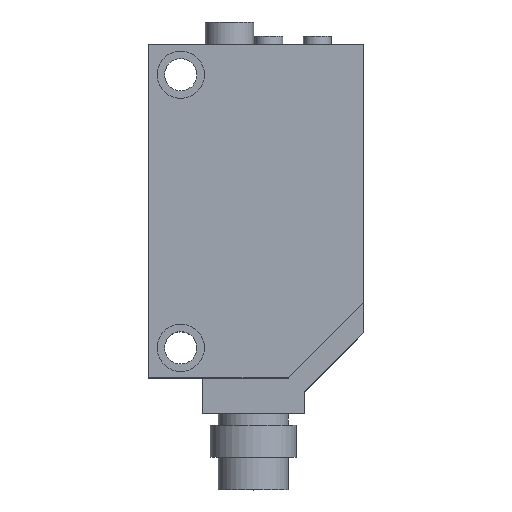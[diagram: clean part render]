
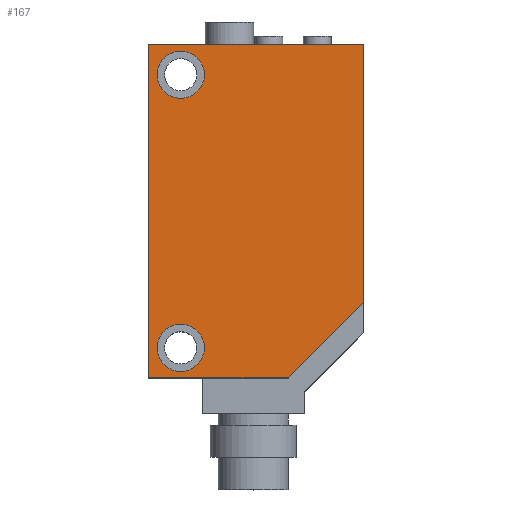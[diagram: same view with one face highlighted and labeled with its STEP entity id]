
A CAD part, top view. The second image highlights one B-rep face of the part: STEP entity #167.
In plain terms, the highlighted planar face has unit normal (0, 0, 1).
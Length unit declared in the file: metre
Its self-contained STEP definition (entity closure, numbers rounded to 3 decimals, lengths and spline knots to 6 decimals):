
#167=ADVANCED_FACE('',(#369,#370,#371),#372,.T.);
#369=FACE_OUTER_BOUND('',#647,.T.);
#370=FACE_BOUND('',#648,.T.);
#371=FACE_BOUND('',#649,.T.);
#372=PLANE('',#650);
#647=EDGE_LOOP('',(#959,#960,#961,#962,#963));
#648=EDGE_LOOP('',(#964));
#649=EDGE_LOOP('',(#965));
#650=AXIS2_PLACEMENT_3D('',#966,#967,#968);
#959=ORIENTED_EDGE('',*,*,#1550,.T.);
#960=ORIENTED_EDGE('',*,*,#1551,.T.);
#961=ORIENTED_EDGE('',*,*,#1552,.T.);
#962=ORIENTED_EDGE('',*,*,#1553,.T.);
#963=ORIENTED_EDGE('',*,*,#1554,.T.);
#964=ORIENTED_EDGE('',*,*,#1555,.F.);
#965=ORIENTED_EDGE('',*,*,#1556,.F.);
#966=CARTESIAN_POINT('',(-0.003,-0.0028,0.0052));
#967=DIRECTION('',(0.0,0.0,1.0));
#968=DIRECTION('',(1.0,0.0,0.0));
#1550=EDGE_CURVE('',#1813,#1814,#1815,.T.);
#1551=EDGE_CURVE('',#1814,#1816,#1817,.T.);
#1552=EDGE_CURVE('',#1816,#1818,#1819,.T.);
#1553=EDGE_CURVE('',#1818,#1820,#1821,.T.);
#1554=EDGE_CURVE('',#1820,#1813,#1822,.T.);
#1555=EDGE_CURVE('',#1823,#1823,#1824,.T.);
#1556=EDGE_CURVE('',#1825,#1825,#1826,.T.);
#1813=VERTEX_POINT('',#2192);
#1814=VERTEX_POINT('',#2193);
#1815=LINE('',#2194,#2195);
#1816=VERTEX_POINT('',#2196);
#1817=LINE('',#2197,#2198);
#1818=VERTEX_POINT('',#2199);
#1819=LINE('',#2200,#2201);
#1820=VERTEX_POINT('',#2202);
#1821=LINE('',#2203,#2204);
#1822=LINE('',#2205,#2206);
#1823=VERTEX_POINT('',#2207);
#1824=CIRCLE('',#2208,0.0022);
#1825=VERTEX_POINT('',#2209);
#1826=CIRCLE('',#2210,0.0022);
#2192=CARTESIAN_POINT('',(-0.003,0.0282,0.0052));
#2193=CARTESIAN_POINT('',(-0.003,-0.0028,0.0052));
#2194=CARTESIAN_POINT('',(-0.003,0.0282,0.0052));
#2195=VECTOR('',#2592,1.0);
#2196=CARTESIAN_POINT('',(0.01,-0.0028,0.0052));
#2197=CARTESIAN_POINT('',(-0.003,-0.0028,0.0052));
#2198=VECTOR('',#2593,1.0);
#2199=CARTESIAN_POINT('',(0.017,0.0042,0.0052));
#2200=CARTESIAN_POINT('',(0.017,0.0042,0.0052));
#2201=VECTOR('',#2594,1.0);
#2202=CARTESIAN_POINT('',(0.017,0.0282,0.0052));
#2203=CARTESIAN_POINT('',(0.017,0.0282,0.0052));
#2204=VECTOR('',#2595,1.0);
#2205=CARTESIAN_POINT('',(-0.003,0.0282,0.0052));
#2206=VECTOR('',#2596,1.0);
#2207=CARTESIAN_POINT('',(0.0022,0.0254,0.0052));
#2208=AXIS2_PLACEMENT_3D('',#2597,#2598,#2599);
#2209=CARTESIAN_POINT('',(0.0022,0.0,0.0052));
#2210=AXIS2_PLACEMENT_3D('',#2600,#2601,#2602);
#2592=DIRECTION('',(0.0,-1.0,0.0));
#2593=DIRECTION('',(1.0,0.0,0.0));
#2594=DIRECTION('',(0.707,0.707,0.0));
#2595=DIRECTION('',(0.0,1.0,0.0));
#2596=DIRECTION('',(-1.0,0.0,0.0));
#2597=CARTESIAN_POINT('',(0.0,0.0254,0.0052));
#2598=DIRECTION('',(0.0,0.0,1.0));
#2599=DIRECTION('',(1.0,0.0,0.0));
#2600=CARTESIAN_POINT('',(0.0,0.0,0.0052));
#2601=DIRECTION('',(0.0,0.0,1.0));
#2602=DIRECTION('',(1.0,0.0,0.0));
